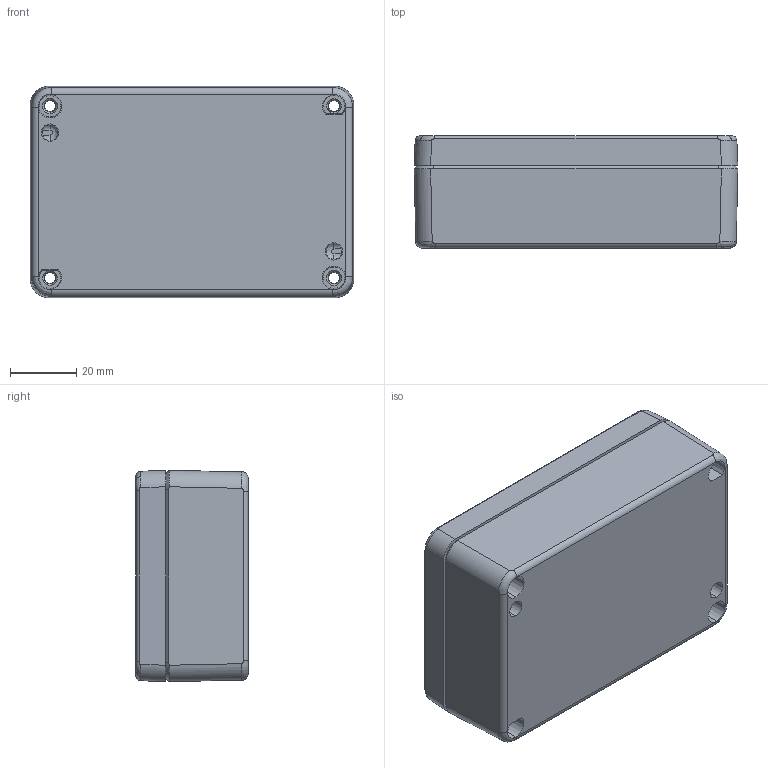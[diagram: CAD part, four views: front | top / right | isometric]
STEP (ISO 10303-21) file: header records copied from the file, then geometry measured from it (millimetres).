
FILE_DESCRIPTION (( 'STEP AP203' ), '1' );
FILE_NAME ('BB022.STEP', '2024-12-26T16:21:09', ( '' ), ( '' ), 'SwSTEP 2.0', 'SolidWorks 2019', '' );
FILE_SCHEMA (( 'CONFIG_CONTROL_DESIGN' ));
Length unit declared in the file: millimetre
Products named in the file (3): BASE 98x64x34; BB022; LID 98x64x34
Assembly tree (2 placements, depth 2):
  BB022
    BASE 98x64x34
    LID 98x64x34
Bounding box: 98 x 34 x 64 mm (x, y, z)
Volume: 69612.4 mm3; surface area: 47828.3 mm2
Topology: 4 solids, 4 shells, 947 faces, 2494 edges, 1583 vertices
Faces by surface type: plane 362, bspline 271, cylinder 160, cone 154
Entity records: 35526 total; most frequent: CARTESIAN_POINT 13551, ORIENTED_EDGE 4924, DIRECTION 3842, EDGE_CURVE 2462, VERTEX_POINT 1583, AXIS2_PLACEMENT_3D 1290, LINE 1262, VECTOR 1262
